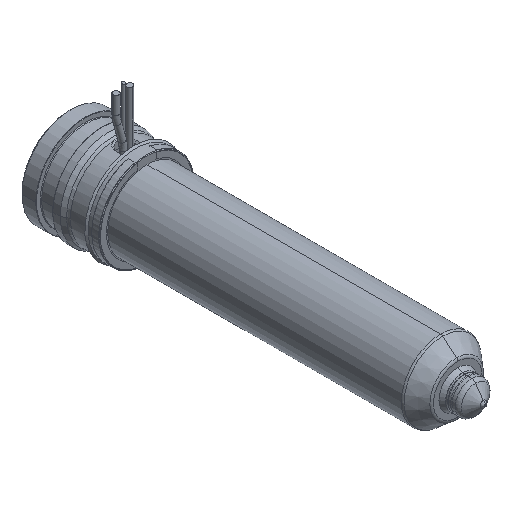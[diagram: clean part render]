
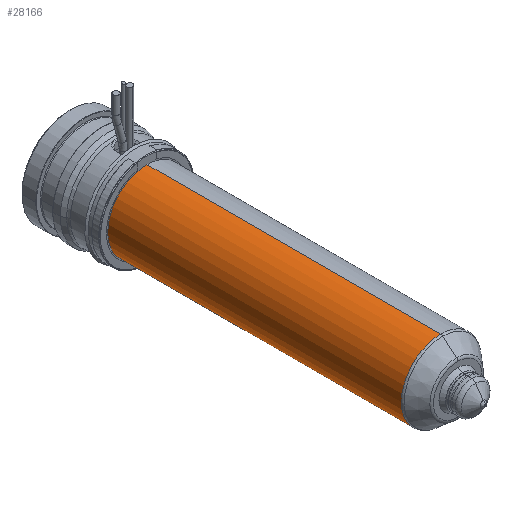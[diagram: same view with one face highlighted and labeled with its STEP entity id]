
A CAD part, isometric view. The second image highlights one B-rep face of the part: STEP entity #28166.
In plain terms, the highlighted cylindrical face has radius 12 mm (diameter 24 mm), a partial arc.
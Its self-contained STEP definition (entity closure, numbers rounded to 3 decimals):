
#27651=CARTESIAN_POINT('',(0.,-24.,0.));
#27652=DIRECTION('',(0.,1.,0.));
#27653=DIRECTION('',(0.,0.,-1.));
#27654=AXIS2_PLACEMENT_3D('',#27651,#27652,#27653);
#27659=DIRECTION('',(0.,1.,0.));
#27660=VECTOR('',#27659,89.736);
#27661=CARTESIAN_POINT('',(0.,-113.736,12.));
#27662=LINE('',#27661,#27660);
#27674=DIRECTION('',(0.,1.,0.));
#27675=VECTOR('',#27674,89.736);
#27676=CARTESIAN_POINT('',(0.,-113.736,-12.));
#27677=LINE('',#27676,#27675);
#27705=CARTESIAN_POINT('',(0.,-113.736,0.));
#27706=DIRECTION('',(0.,-1.,0.));
#27707=DIRECTION('',(0.,0.,1.));
#27708=AXIS2_PLACEMENT_3D('',#27705,#27706,#27707);
#28035=CARTESIAN_POINT('',(0.,-113.736,12.));
#28036=CARTESIAN_POINT('',(0.,-24.,12.));
#28037=VERTEX_POINT('',#28035);
#28038=VERTEX_POINT('',#28036);
#28039=CARTESIAN_POINT('',(0.,-113.736,-12.));
#28040=CARTESIAN_POINT('',(0.,-24.,-12.));
#28041=VERTEX_POINT('',#28039);
#28042=VERTEX_POINT('',#28040);
#28152=CARTESIAN_POINT('',(0.,-14.625,0.));
#28153=DIRECTION('',(0.,-1.,0.));
#28154=DIRECTION('',(0.,0.,1.));
#28155=AXIS2_PLACEMENT_3D('',#28152,#28153,#28154);
#28156=CYLINDRICAL_SURFACE('',#28155,12.);
#28158=ORIENTED_EDGE('',*,*,#28157,.F.);
#28160=ORIENTED_EDGE('',*,*,#28159,.T.);
#28162=ORIENTED_EDGE('',*,*,#28161,.T.);
#28163=ORIENTED_EDGE('',*,*,#28145,.T.);
#28164=EDGE_LOOP('',(#28158,#28160,#28162,#28163));
#28165=FACE_OUTER_BOUND('',#28164,.F.);
#28166=ADVANCED_FACE('',(#28165),#28156,.T.);
#27655=CIRCLE('',#27654,12.);
#27709=CIRCLE('',#27708,12.);
#28145=EDGE_CURVE('',#28042,#28038,#27655,.T.);
#28157=EDGE_CURVE('',#28037,#28038,#27662,.T.);
#28159=EDGE_CURVE('',#28037,#28041,#27709,.T.);
#28161=EDGE_CURVE('',#28041,#28042,#27677,.T.);
